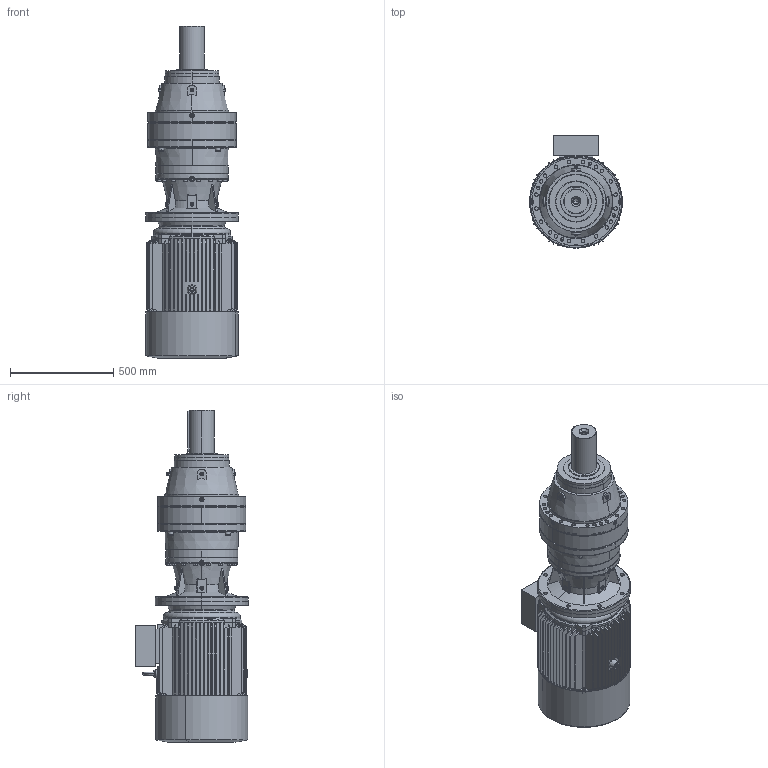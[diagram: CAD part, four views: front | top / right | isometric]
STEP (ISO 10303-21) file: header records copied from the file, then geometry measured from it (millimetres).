
FILE_DESCRIPTION (( 'STEP AP203' ), '1' );
FILE_NAME ('PVL-2902L-HS225S-4.STEP', '2019-05-27T09:17:29', ( '' ), ( '' ), 'SwSTEP 2.0', 'SolidWorks 2012', '' );
FILE_SCHEMA (( 'CONFIG_CONTROL_DESIGN' ));
Products named in the file (15): PVL-2902L-HS225S-4; Y2-225+¦i-_-++ñ; shaft_225-4; M3-HS225S-4p-FF-B5; M3-225S-4p-FF-B5; Y2-200-4.6.8+ª-¯ª­-È®+_-++ñ; 225-2-ª+-_-++ñ; Eyebolts GB_GB_FASTENER_SCREWS_FRS M16-N; Y2-225SB5+À+¿_-++ñ; EK2902L_Varsayìlan; PNL_2902L_0_0_A22_B5_ML49A_FL15A_0_0_0_0_0_0_0_0_0_0_0_M1; FL15A_Varsayìlan; 23225B5_Varsayìlan; ML49A_Varsayìlan; P29_Varsayìlan
Assembly tree (14 placements, depth 4):
  PVL-2902L-HS225S-4
    PNL_2902L_0_0_A22_B5_ML49A_FL15A_0_0_0_0_0_0_0_0_0_0_0_M1
      P29_Varsayìlan
      23225B5_Varsayìlan
      ML49A_Varsayìlan
      EK2902L_Varsayìlan
      FL15A_Varsayìlan
    M3-HS225S-4p-FF-B5
      M3-225S-4p-FF-B5
        Y2-225SB5+À+¿_-++ñ
        Eyebolts GB_GB_FASTENER_SCREWS_FRS M16-N
        Y2-200-4.6.8+ª-¯ª­-È®+_-++ñ
        225-2-ª+-_-++ñ
        Y2-225+¦i-_-++ñ
        shaft_225-4
Bounding box: 450 x 545 x 1608.5 mm (x, y, z)
Volume: 84495196.3 mm3; surface area: 6305453.8 mm2
Topology: 17 solids, 17 shells, 2380 faces, 6223 edges, 3953 vertices
Faces by surface type: plane 888, cylinder 822, cone 329, bspline 316, torus 25
Entity records: 93596 total; most frequent: CARTESIAN_POINT 34976, ORIENTED_EDGE 12318, DIRECTION 11541, EDGE_CURVE 6159, AXIS2_PLACEMENT_3D 4517, VERTEX_POINT 3953, EDGE_LOOP 2788, VECTOR 2507
